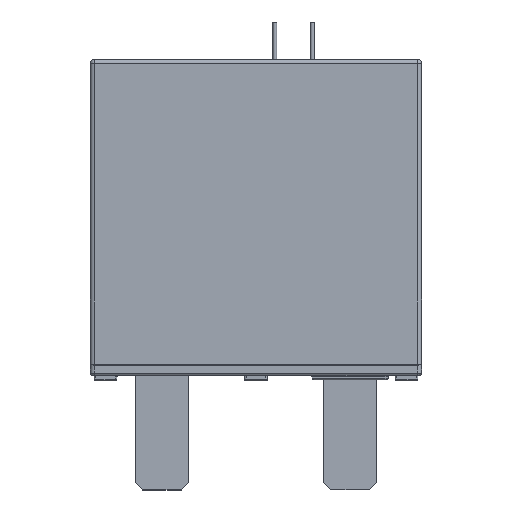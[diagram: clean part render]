
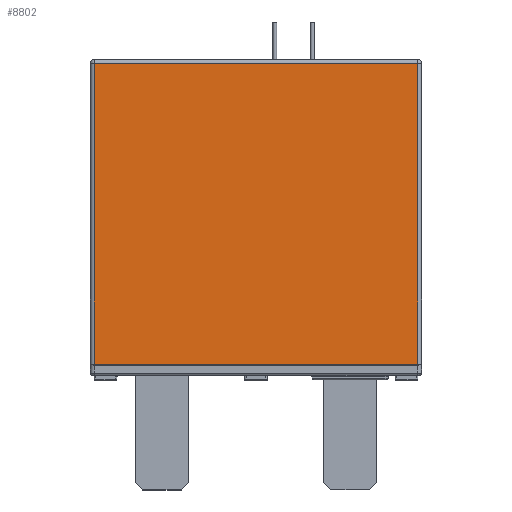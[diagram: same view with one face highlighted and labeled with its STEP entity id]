
A CAD part, top view. The second image highlights one B-rep face of the part: STEP entity #8802.
In plain terms, the highlighted planar face has unit normal (0, 0, 1).
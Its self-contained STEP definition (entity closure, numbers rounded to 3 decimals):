
#194=DIRECTION('',(1.,0.,0.));
#195=VECTOR('',#194,43.);
#196=CARTESIAN_POINT('',(-21.5,1.5,7.3));
#197=LINE('',#196,#195);
#4056=DIRECTION('',(0.,-1.,0.));
#4057=VECTOR('',#4056,40.);
#4058=CARTESIAN_POINT('',(21.5,41.5,7.3));
#4059=LINE('',#4058,#4057);
#4063=DIRECTION('',(0.,-1.,0.));
#4064=VECTOR('',#4063,40.);
#4065=CARTESIAN_POINT('',(-21.5,41.5,7.3));
#4066=LINE('',#4065,#4064);
#4070=DIRECTION('',(1.,0.,0.));
#4071=VECTOR('',#4070,43.);
#4072=CARTESIAN_POINT('',(-21.5,41.5,7.3));
#4073=LINE('',#4072,#4071);
#4929=CARTESIAN_POINT('',(21.5,1.5,7.3));
#4931=VERTEX_POINT('',#4929);
#4932=CARTESIAN_POINT('',(21.5,41.5,7.3));
#4933=VERTEX_POINT('',#4932);
#4934=CARTESIAN_POINT('',(-21.5,41.5,7.3));
#4935=VERTEX_POINT('',#4934);
#4938=CARTESIAN_POINT('',(-21.5,1.5,7.3));
#4940=VERTEX_POINT('',#4938);
#8789=CARTESIAN_POINT('',(-22.,1.5,7.3));
#8790=DIRECTION('',(0.,0.,1.));
#8791=DIRECTION('',(1.,0.,0.));
#8792=AXIS2_PLACEMENT_3D('',#8789,#8790,#8791);
#8793=PLANE('',#8792);
#8794=ORIENTED_EDGE('',*,*,#8781,.T.);
#8795=ORIENTED_EDGE('',*,*,#5177,.F.);
#8797=ORIENTED_EDGE('',*,*,#8796,.F.);
#8799=ORIENTED_EDGE('',*,*,#8798,.T.);
#8800=EDGE_LOOP('',(#8794,#8795,#8797,#8799));
#8801=FACE_OUTER_BOUND('',#8800,.F.);
#8802=ADVANCED_FACE('',(#8801),#8793,.T.);
#5177=EDGE_CURVE('',#4940,#4931,#197,.T.);
#8781=EDGE_CURVE('',#4933,#4931,#4059,.T.);
#8796=EDGE_CURVE('',#4935,#4940,#4066,.T.);
#8798=EDGE_CURVE('',#4935,#4933,#4073,.T.);
